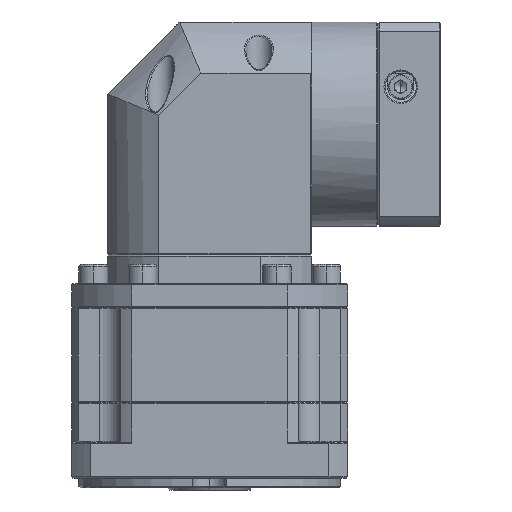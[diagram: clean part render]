
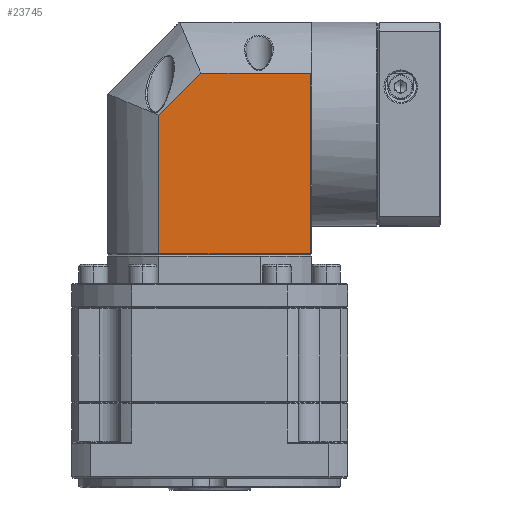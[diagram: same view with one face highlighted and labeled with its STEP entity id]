
A CAD part, front view. The second image highlights one B-rep face of the part: STEP entity #23745.
In plain terms, the highlighted planar face has unit normal (0, -1, 0).
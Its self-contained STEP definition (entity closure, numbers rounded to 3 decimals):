
#3277 = CARTESIAN_POINT ( 'NONE',  ( 37.305, 49.525, 49.062 ) ) ;
#5870 = VERTEX_POINT ( 'NONE', #83552 ) ;
#9534 = CARTESIAN_POINT ( 'NONE',  ( 100.518, 49.525, 27.775 ) ) ;
#10904 = ORIENTED_EDGE ( 'NONE', *, *, #122852, .F. ) ;
#14585 = VECTOR ( 'NONE', #91105, 1000. ) ;
#14807 = EDGE_LOOP ( 'NONE', ( #104611, #127573, #33244, #10904, #103084 ) ) ;
#15760 = LINE ( 'NONE', #106950, #45000 ) ;
#23745 = ADVANCED_FACE ( 'NONE', ( #140441 ), #38509, .F. ) ;
#24551 = CARTESIAN_POINT ( 'NONE',  ( 101.018, 49.525, 27.775 ) ) ;
#27273 = VERTEX_POINT ( 'NONE', #70077 ) ;
#28868 = CARTESIAN_POINT ( 'NONE',  ( 101.018, 49.525, 49.062 ) ) ;
#33244 = ORIENTED_EDGE ( 'NONE', *, *, #113271, .F. ) ;
#38509 = PLANE ( 'NONE',  #108239 ) ;
#39745 = VECTOR ( 'NONE', #75221, 1000. ) ;
#40235 = CARTESIAN_POINT ( 'NONE',  ( 54.836, 49.525, 27.775 ) ) ;
#41243 = DIRECTION ( 'NONE',  ( 0., 0., -1. ) ) ;
#45000 = VECTOR ( 'NONE', #41243, 1000. ) ;
#45358 = EDGE_CURVE ( 'NONE', #64075, #27273, #99851, .T. ) ;
#48370 = VECTOR ( 'NONE', #56680, 1000. ) ;
#49106 = DIRECTION ( 'NONE',  ( -1., 0., 0. ) ) ;
#50554 = VERTEX_POINT ( 'NONE', #9534 ) ;
#52934 = LINE ( 'NONE', #24551, #56358 ) ;
#56358 = VECTOR ( 'NONE', #79329, 1000. ) ;
#56680 = DIRECTION ( 'NONE',  ( 1., 0., 0. ) ) ;
#58643 = LINE ( 'NONE', #141810, #39745 ) ;
#62541 = CARTESIAN_POINT ( 'NONE',  ( 37.305, 49.525, -47.438 ) ) ;
#64075 = VERTEX_POINT ( 'NONE', #62541 ) ;
#70077 = CARTESIAN_POINT ( 'NONE',  ( 100.518, 49.525, -47.438 ) ) ;
#75221 = DIRECTION ( 'NONE',  ( 0.707, 0., 0.707 ) ) ;
#79329 = DIRECTION ( 'NONE',  ( 1., 0., 0. ) ) ;
#83552 = CARTESIAN_POINT ( 'NONE',  ( 37.305, 49.525, 10.245 ) ) ;
#91105 = DIRECTION ( 'NONE',  ( 0., 0., 1. ) ) ;
#98338 = EDGE_CURVE ( 'NONE', #64075, #5870, #105599, .T. ) ;
#99851 = LINE ( 'NONE', #100314, #48370 ) ;
#100314 = CARTESIAN_POINT ( 'NONE',  ( 101.018, 49.525, -47.438 ) ) ;
#103084 = ORIENTED_EDGE ( 'NONE', *, *, #98338, .F. ) ;
#104611 = ORIENTED_EDGE ( 'NONE', *, *, #45358, .T. ) ;
#105502 = VERTEX_POINT ( 'NONE', #40235 ) ;
#105599 = LINE ( 'NONE', #3277, #14585 ) ;
#106950 = CARTESIAN_POINT ( 'NONE',  ( 100.518, 49.525, 49.062 ) ) ;
#108239 = AXIS2_PLACEMENT_3D ( 'NONE', #28868, #116685, #49106 ) ;
#113271 = EDGE_CURVE ( 'NONE', #105502, #50554, #52934, .T. ) ;
#116685 = DIRECTION ( 'NONE',  ( 0., 1., 0. ) ) ;
#122852 = EDGE_CURVE ( 'NONE', #5870, #105502, #58643, .T. ) ;
#127573 = ORIENTED_EDGE ( 'NONE', *, *, #128538, .F. ) ;
#128538 = EDGE_CURVE ( 'NONE', #50554, #27273, #15760, .T. ) ;
#140441 = FACE_OUTER_BOUND ( 'NONE', #14807, .T. ) ;
#141810 = CARTESIAN_POINT ( 'NONE',  ( 37.305, 49.525, 10.245 ) ) ;
